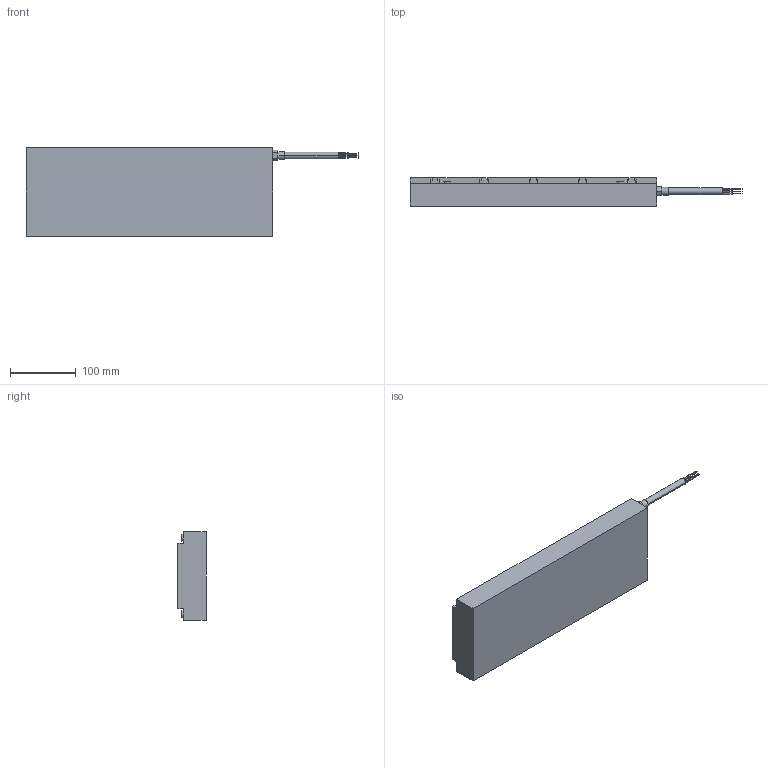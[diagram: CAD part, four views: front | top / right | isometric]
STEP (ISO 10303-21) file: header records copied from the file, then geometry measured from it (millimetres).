
FILE_DESCRIPTION((''),'2;1');
FILE_NAME('IC22_100','2010-03-09T',('brad.winesett'),('Kollmorgen'),'PRO/ENGINEER BY PARAMETRIC TECHNOLOGY CORPORATION, 2006510','PRO/ENGINEER BY PARAMETRIC TECHNOLOGY CORPORATION, 2006510','');
FILE_SCHEMA(('CONFIG_CONTROL_DESIGN'));
Length unit declared in the file: millimetre
Products named in the file (1): IC22_100
Bounding box: 506.2 x 43.3 x 135 mm (x, y, z)
Volume: 2095472.9 mm3; surface area: 173899.3 mm2
Topology: 1 solids, 16 shells, 277 faces, 684 edges, 441 vertices
Faces by surface type: plane 143, cylinder 104, cone 30
Entity records: 8048 total; most frequent: DIRECTION 1448, CARTESIAN_POINT 1373, ORIENTED_EDGE 1248, EDGE_CURVE 654, AXIS2_PLACEMENT_3D 516, VERTEX_POINT 441, VECTOR 416, LINE 416
